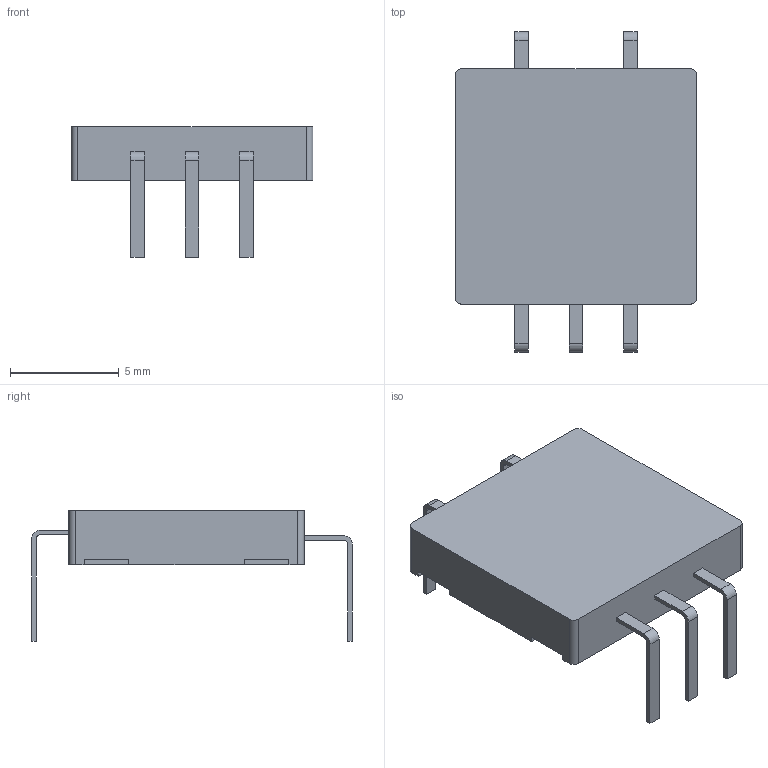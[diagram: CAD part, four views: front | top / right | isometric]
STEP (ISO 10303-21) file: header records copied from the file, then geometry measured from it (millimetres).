
FILE_DESCRIPTION(/* description */ ('STEP AP242 Edition 2','CAx-IF Rec.Pracs.---Representation and Presentation of Product Manufacturing Information (PMI)---4.0---2014-10-13','CAx-IF Rec.Pracs.---3D Tessellated Geometry---0.4---2014-09-14','2;1','CAx-IF Rec.Pracs.---User Defined Attributes---1.5---2016-08-15'),/* implementation_level */ '2;1');
FILE_NAME(/* name */ 'Assembly 1 - SW-TH_EC11E18244A5~SW-TH_EC11E18244A5-L11.7-W12.0-H24.5-P2.5-LS14.5~nxQB (3)',/* time_stamp */ '2026-04-02T09:55:29Z',/* author */ (''),/* organization */ (''),/* preprocessor_version */ 'ST-DEVELOPER v20',/* originating_system */ 'ONSHAPE BY PTC INC, 1.212',/* authorisation */ ' ');
FILE_SCHEMA (('AP242_MANAGED_MODEL_BASED_3D_ENGINEERING_MIM_LF { 1 0 10303 442 3 1 4 }'));
Length unit declared in the file: metre
Products named in the file (1): SW-TH_EC11E18244A5~SW-TH_EC11E18244A5-L11.7-W12.0-H24.5-P2.5-LS14.5~n
xQB
Bounding box: 11.1 x 14.7 x 5.99 mm (x, y, z)
Volume: 296.1 mm3; surface area: 406.4 mm2
Topology: 1 solids, 1 shells, 129 faces, 345 edges, 230 vertices
Faces by surface type: plane 102, cylinder 22, bspline 5
Entity records: 4871 total; most frequent: CARTESIAN_POINT 1115, ORIENTED_EDGE 690, DIRECTION 618, EDGE_CURVE 345, LINE 280, VECTOR 280, VERTEX_POINT 230, AXIS2_PLACEMENT_3D 169
